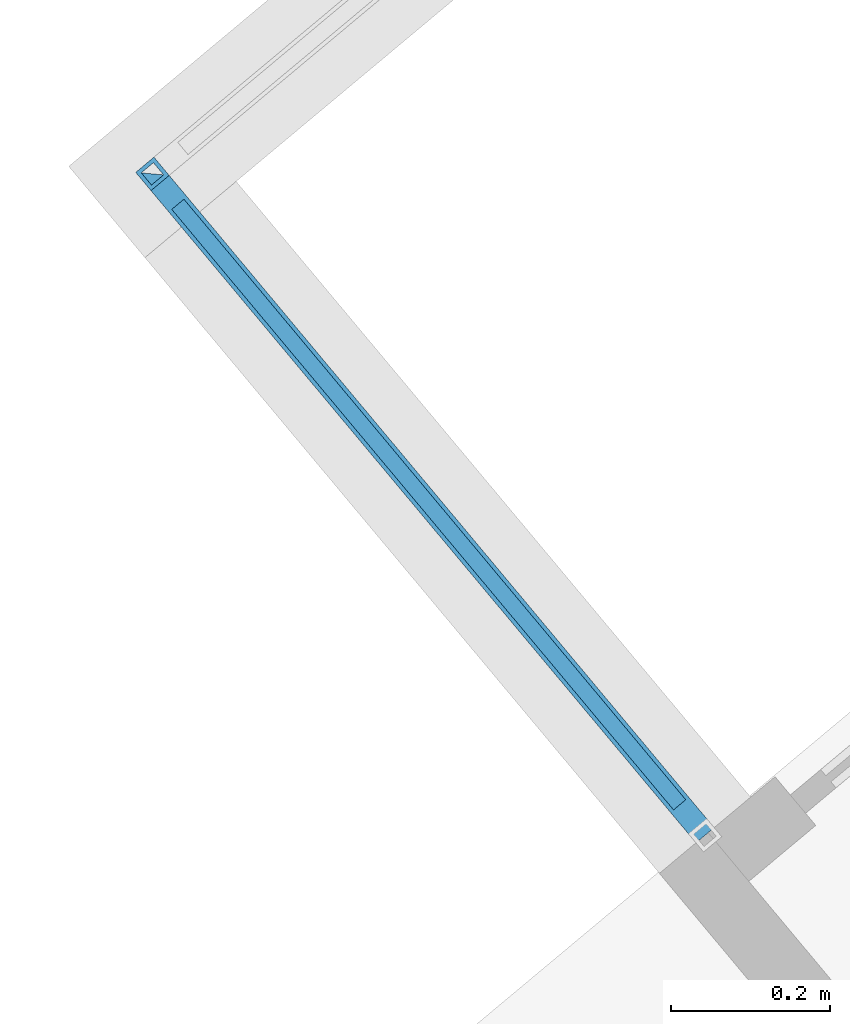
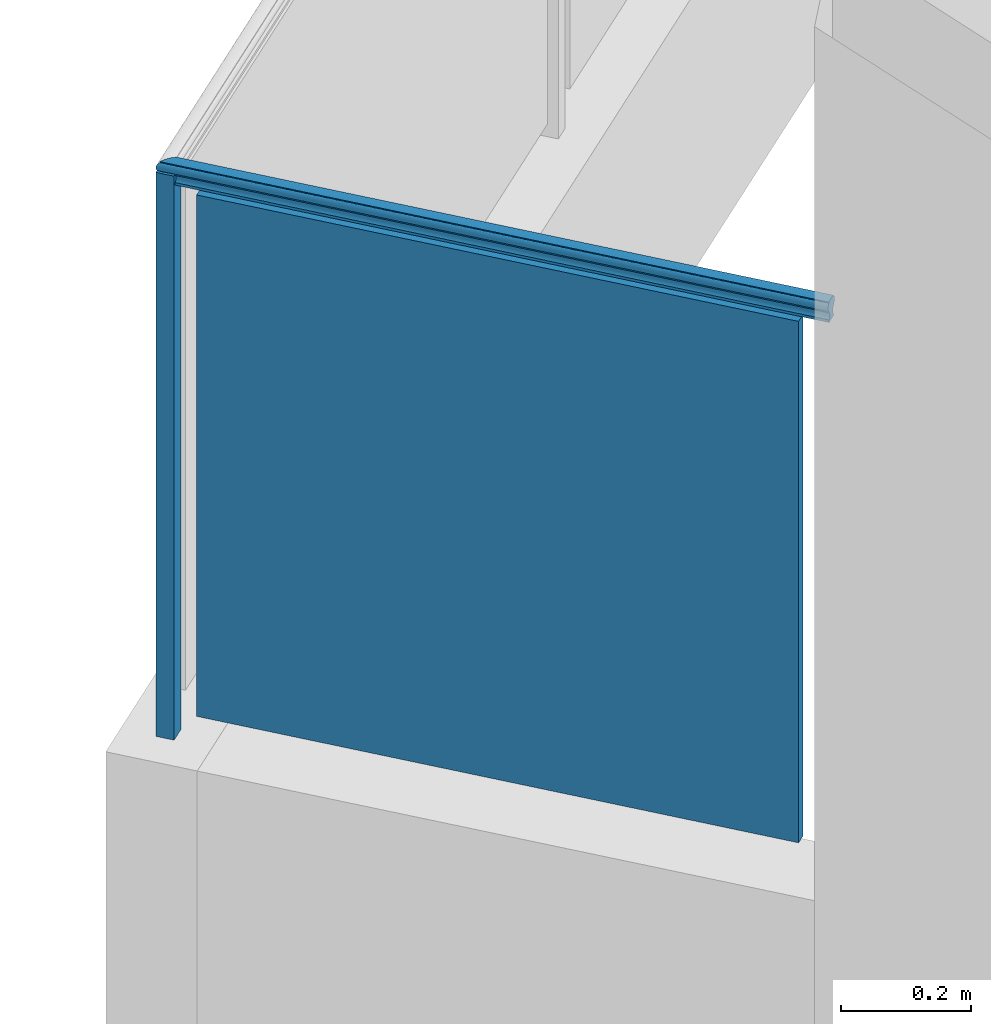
# One storey, part 28 of 67: 3 building element parts, 1 element without a shape of its own.
"""IFC4 building model written with IfcOpenShell, lengths in metres."""

from ifc_helpers import new_model, entity, si_unit, converted_unit, derived_unit, direction, frame, origin_with_axes, place, context, subcontext, project, spatial, polygons, material, type_object, element, aggregate, save


model = new_model("IFC4")

# Units and contexts
model_context = context("Model", 3, precision=1e-05, world=origin_with_axes(), true_north=direction((0.0, 1.0)))
body_context = subcontext(model_context, "Body", "Model", "MODEL_VIEW")
ifc_project = project(units=[si_unit("LENGTHUNIT", "METRE"), si_unit("AREAUNIT", "SQUARE_METRE"), si_unit("VOLUMEUNIT", "CUBIC_METRE"), converted_unit("PLANEANGLEUNIT", "DEGREE", entity("IfcPlaneAngleMeasure", 0.0174532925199), si_unit("PLANEANGLEUNIT", "RADIAN"), dimensions=[0, 0, 0, 0, 0, 0, 0]), converted_unit("TIMEUNIT", "Year", entity("IfcTimeMeasure", 31556926.0), si_unit("TIMEUNIT", "SECOND"), dimensions=[0, 0, 1, 0, 0, 0, 0]), si_unit("MASSUNIT", "GRAM", prefix="KILO"), si_unit("THERMODYNAMICTEMPERATUREUNIT", "DEGREE_CELSIUS"), si_unit("LUMINOUSINTENSITYUNIT", "LUMEN"), si_unit("ENERGYUNIT", "JOULE", prefix="MEGA"), derived_unit("THERMALCONDUCTANCEUNIT", [(si_unit("POWERUNIT", "WATT"), 1), (si_unit("LENGTHUNIT", "METRE"), -1), (si_unit("THERMODYNAMICTEMPERATUREUNIT", "KELVIN"), -1)]), derived_unit("SPECIFICHEATCAPACITYUNIT", [(si_unit("ENERGYUNIT", "JOULE"), 1), (si_unit("MASSUNIT", "GRAM", prefix="KILO"), -1), (si_unit("THERMODYNAMICTEMPERATUREUNIT", "KELVIN"), -1)]), derived_unit("MASSDENSITYUNIT", [(si_unit("MASSUNIT", "GRAM", prefix="KILO"), 1), (si_unit("VOLUMEUNIT", "CUBIC_METRE"), -1)])], contexts=[model_context])

# Site, building, storey
site_placement = place(None, frame((-0.00153261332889, -0.00661245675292, 0.0), z_axis=(0.0, 0.0, 1.0), x_axis=(1.0, 0.0, 0.0)))
site = spatial("IfcSite", under=ifc_project, at=site_placement, Name="Site", CompositionType="ELEMENT")
building_placement = place(site_placement, origin_with_axes())
building = spatial("IfcBuilding", under=site, at=building_placement, Name="Building", CompositionType="ELEMENT")
storey_placement = place(building_placement, frame((0.0, 0.0, -0.22), z_axis=(0.0, 0.0, 1.0), x_axis=(1.0, 0.0, 0.0)))
storey = spatial("IfcBuildingStorey", under=building, at=storey_placement, Name="EG", CompositionType="ELEMENT", Elevation=-0.22)

# Railing, building element parts
railing_type = type_object("IfcRailingType", Name="Geländerart", PredefinedType="NOTDEFINED")
railing_placement = place(storey_placement, frame((-6.36726458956, 22.4448248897, 0.523948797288), z_axis=(0.0, 0.0, 1.0), x_axis=(1.0, 0.0, 0.0)))
railing = element("IfcRailing", 1, at=railing_placement, inside=storey, type_object=railing_type, Name="Geländer - 001", PredefinedType="NOTDEFINED")
ifc_material_1 = material(Name="Aluminium")
building_element_part_1_placement = place(railing_placement, origin_with_axes())
building_element_part_1 = element("IfcBuildingElementPart", 2, at=building_element_part_1_placement, material=ifc_material_1, Name="Aluminium", PredefinedType="NOTDEFINED", context=body_context, shape_type="Tessellation", body=[
    polygons([(-0.637623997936, 0.903434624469, 0.0), (-0.660644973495, 0.884198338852, 0.0), (-0.660644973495, 0.884198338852, 1.06), (-0.637623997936, 0.903434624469, 1.06), (-0.61838771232, 0.88041364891, 0.0), (-0.641408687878, 0.861177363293, 0.0), (-0.638254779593, 0.896391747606, 0.0), (-0.653602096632, 0.883567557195, 0.0), (-0.640777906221, 0.868220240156, 0.0), (-0.625430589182, 0.881044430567, 0.0), (-0.641408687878, 0.861177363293, 1.06), (-0.61838771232, 0.88041364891, 1.06), (-0.638254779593, 0.896391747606, 1.06), (-0.625430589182, 0.881044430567, 1.06), (-0.640777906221, 0.868220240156, 1.06), (-0.653602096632, 0.883567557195, 1.06)], [[[1, 2, 3, 4]], [[1, 5, 6, 2], [7, 8, 9, 10]], [[2, 6, 11, 3]], [[4, 3, 11, 12], [13, 14, 15, 16]], [[5, 1, 4, 12]], [[6, 5, 12, 11]], [[8, 7, 13, 16]], [[9, 8, 16, 15]], [[10, 9, 15, 14]], [[7, 10, 14, 13]]], closed=True),
])
building_element_part_2_placement = place(railing_placement, origin_with_axes())
building_element_part_2 = element("IfcBuildingElementPart", 3, at=building_element_part_2_placement, material=ifc_material_1, Name="Aluminium", PredefinedType="NOTDEFINED", context=body_context, shape_type="Tessellation", body=[
    polygons([(0.0653297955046, 0.0545894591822, 1.07636363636), (0.065510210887, 0.0547402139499, 1.07634109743), (-0.624907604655, 0.880995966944, 1.07634109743), (-0.62523880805, 0.881025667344, 1.07636363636), (0.0653297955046, 0.0545894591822, 1.07818181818), (0.0652823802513, 0.0545498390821, 1.07820551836), (0.0627521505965, 0.0524355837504, 1.0792391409), (0.0601853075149, 0.0502907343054, 1.07983921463), (0.0576013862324, 0.0481316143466, 1.08000117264), (0.0575524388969, 0.0480907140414, 1.08), (0.0575034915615, 0.0480498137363, 1.08000117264), (0.0549195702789, 0.0458906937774, 1.07983921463), (0.0523527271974, 0.0437458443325, 1.0792391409), (0.0498224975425, 0.0416315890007, 1.07820551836), (0.0497750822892, 0.0415919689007, 1.07818181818), (0.0497750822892, 0.0415919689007, 1.07636363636), (0.0495946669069, 0.0414412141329, 1.07634109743), (0.0489265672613, 0.0408829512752, 1.0761115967), (0.0482890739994, 0.0403502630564, 1.07565956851), (0.0477015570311, 0.0398593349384, 1.07499874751), (0.0471818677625, 0.0394250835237, 1.0741492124), (0.0467457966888, 0.0390607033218, 1.07313677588), (0.0464065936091, 0.0387772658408, 1.07199220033), (0.0461745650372, 0.038583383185, 1.07075026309), (0.0460567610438, 0.0384849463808, 1.06944869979), (0.0460567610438, 0.0384849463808, 1.06812705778), (0.0461745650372, 0.038583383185, 1.06682549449), (0.0464065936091, 0.0387772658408, 1.06558355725), (0.0467457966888, 0.0390607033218, 1.06443898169), (0.0471818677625, 0.0394250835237, 1.06342654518), (0.0477015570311, 0.0398593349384, 1.06257701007), (0.0482890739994, 0.0403502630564, 1.06191618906), (0.0489265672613, 0.0408829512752, 1.06146416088), (0.0495946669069, 0.0414412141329, 1.06123466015), (0.0497750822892, 0.0415919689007, 1.06121212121), (0.0497750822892, 0.0415919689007, 1.05818181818), (0.0498970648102, 0.041693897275, 1.05810011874), (0.0504653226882, 0.0421687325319, 1.05758389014), (0.050978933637, 0.0425979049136, 1.05688326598), (0.051422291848, 0.0429683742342, 1.05601953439), (0.0517819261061, 0.043268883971, 1.05501893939), (0.0520469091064, 0.0434903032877, 1.05391188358), (0.0522091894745, 0.0436259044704, 1.05273200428), (0.0522638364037, 0.0436715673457, 1.05151515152), (0.0522091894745, 0.0436259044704, 1.05029829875), (0.0520469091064, 0.0434903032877, 1.04911841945), (0.0517819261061, 0.043268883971, 1.04801136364), (0.051422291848, 0.0429683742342, 1.04701076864), (0.050978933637, 0.0425979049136, 1.04614703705), (0.0504653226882, 0.0421687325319, 1.04544641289), (0.0498970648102, 0.041693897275, 1.04493018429), (0.0497750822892, 0.0415919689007, 1.04484848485), (0.0497750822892, 0.0415919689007, 1.04), (0.0653297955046, 0.0545894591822, 1.04), (0.0653297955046, 0.0545894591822, 1.04484848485), (0.0652078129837, 0.0544875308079, 1.04493018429), (0.0646395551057, 0.0540126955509, 1.04544641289), (0.0641259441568, 0.0535835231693, 1.04614703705), (0.0636825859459, 0.0532130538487, 1.04701076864), (0.0633229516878, 0.0529125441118, 1.04801136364), (0.0630579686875, 0.0526911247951, 1.04911841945), (0.0628956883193, 0.0525555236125, 1.05029829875), (0.0628410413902, 0.0525098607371, 1.05151515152), (0.0628956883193, 0.0525555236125, 1.05273200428), (0.0630579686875, 0.0526911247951, 1.05391188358), (0.0633229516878, 0.0529125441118, 1.05501893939), (0.0636825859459, 0.0532130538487, 1.05601953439), (0.0641259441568, 0.0535835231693, 1.05688326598), (0.0646395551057, 0.0540126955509, 1.05758389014), (0.0652078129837, 0.0544875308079, 1.05810011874), (0.0653297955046, 0.0545894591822, 1.05818181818), (0.0653297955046, 0.0545894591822, 1.06121212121), (0.065510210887, 0.0547402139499, 1.06123466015), (0.0661783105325, 0.0552984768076, 1.06146416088), (0.0668158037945, 0.0558311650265, 1.06191618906), (0.0674033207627, 0.0563220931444, 1.06257701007), (0.0679230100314, 0.0567563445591, 1.06342654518), (0.0683590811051, 0.057120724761, 1.06443898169), (0.0686982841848, 0.0574041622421, 1.06558355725), (0.0689303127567, 0.0575980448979, 1.06682549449), (0.06904811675, 0.057696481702, 1.06812705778), (0.06904811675, 0.057696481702, 1.06944869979), (0.0689303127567, 0.0575980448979, 1.07075026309), (0.0686982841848, 0.0574041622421, 1.07199220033), (0.0683590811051, 0.057120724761, 1.07313677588), (0.0679230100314, 0.0567563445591, 1.0741492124), (0.0674033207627, 0.0563220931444, 1.07499874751), (0.0668158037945, 0.0558311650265, 1.07565956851), (0.0661783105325, 0.0552984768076, 1.0761115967), (-0.623681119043, 0.880885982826, 1.0761115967), (-0.622510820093, 0.880781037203, 1.07565956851), (-0.621432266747, 0.880684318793, 1.07499874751), (-0.620478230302, 0.880598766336, 1.0741492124), (-0.619677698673, 0.880526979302, 1.07313677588), (-0.619054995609, 0.880471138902, 1.07199220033), (-0.618629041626, 0.880432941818, 1.07075026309), (-0.618412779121, 0.880413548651, 1.06944869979), (-0.618412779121, 0.880413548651, 1.06812705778), (-0.618629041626, 0.880432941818, 1.06682549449), (-0.619054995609, 0.880471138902, 1.06558355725), (-0.619677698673, 0.880526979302, 1.06443898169), (-0.620478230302, 0.880598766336, 1.06342654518), (-0.621432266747, 0.880684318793, 1.06257701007), (-0.622510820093, 0.880781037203, 1.06191618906), (-0.623681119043, 0.880885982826, 1.06146416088), (-0.624907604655, 0.880995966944, 1.06123466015), (-0.62523880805, 0.881025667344, 1.06121212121), (-0.62523880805, 0.881025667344, 1.05818181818), (-0.625462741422, 0.881045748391, 1.05810011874), (-0.626505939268, 0.881139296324, 1.05758389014), (-0.62744881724, 0.881223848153, 1.05688326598), (-0.628262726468, 0.881296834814, 1.05601953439), (-0.628922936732, 0.881356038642, 1.05501893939), (-0.629409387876, 0.88139966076, 1.05391188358), (-0.62970729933, 0.881426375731, 1.05273200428), (-0.629807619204, 0.881435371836, 1.05151515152), (-0.62970729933, 0.881426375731, 1.05029829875), (-0.629409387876, 0.88139966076, 1.04911841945), (-0.628922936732, 0.881356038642, 1.04801136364), (-0.628262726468, 0.881296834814, 1.04701076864), (-0.62744881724, 0.881223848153, 1.04614703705), (-0.626505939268, 0.881139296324, 1.04544641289), (-0.625462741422, 0.881045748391, 1.04493018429), (-0.62523880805, 0.881025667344, 1.04484848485), (-0.62523880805, 0.881025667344, 1.04), (-0.653793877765, 0.883586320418, 1.04), (-0.653793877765, 0.883586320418, 1.04484848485), (-0.653569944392, 0.883566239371, 1.04493018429), (-0.652526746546, 0.883472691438, 1.04544641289), (-0.651583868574, 0.883388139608, 1.04614703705), (-0.650769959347, 0.883315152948, 1.04701076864), (-0.650109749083, 0.88325594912, 1.04801136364), (-0.649623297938, 0.883212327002, 1.04911841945), (-0.649325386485, 0.883185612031, 1.05029829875), (-0.649225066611, 0.883176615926, 1.05151515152), (-0.649325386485, 0.883185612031, 1.05273200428), (-0.649623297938, 0.883212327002, 1.05391188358), (-0.650109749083, 0.88325594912, 1.05501893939), (-0.650769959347, 0.883315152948, 1.05601953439), (-0.651583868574, 0.883388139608, 1.05688326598), (-0.652526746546, 0.883472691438, 1.05758389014), (-0.653569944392, 0.883566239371, 1.05810011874), (-0.653793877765, 0.883586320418, 1.05818181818), (-0.653793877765, 0.883586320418, 1.06121212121), (-0.65412508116, 0.883616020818, 1.06123466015), (-0.655351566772, 0.883726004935, 1.06146416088), (-0.656521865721, 0.883830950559, 1.06191618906), (-0.657600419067, 0.883927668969, 1.06257701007), (-0.658554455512, 0.884013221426, 1.06342654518), (-0.659354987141, 0.88408500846, 1.06443898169), (-0.659977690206, 0.88414084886, 1.06558355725), (-0.660403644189, 0.884179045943, 1.06682549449), (-0.660619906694, 0.884198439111, 1.06812705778), (-0.660619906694, 0.884198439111, 1.06944869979), (-0.660403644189, 0.884179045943, 1.07075026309), (-0.659977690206, 0.88414084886, 1.07199220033), (-0.659354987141, 0.88408500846, 1.07313677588), (-0.658554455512, 0.884013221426, 1.0741492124), (-0.657600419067, 0.883927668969, 1.07499874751), (-0.656521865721, 0.883830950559, 1.07565956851), (-0.655351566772, 0.883726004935, 1.0761115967), (-0.65412508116, 0.883616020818, 1.07634109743), (-0.653793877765, 0.883586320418, 1.07636363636), (-0.653793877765, 0.883586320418, 1.07818181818), (-0.653706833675, 0.883578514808, 1.07820551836), (-0.649061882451, 0.883161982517, 1.0792391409), (-0.64434971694, 0.882739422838, 1.07983921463), (-0.639606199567, 0.882314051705, 1.08000117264), (-0.639516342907, 0.882305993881, 1.08), (-0.639426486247, 0.882297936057, 1.08000117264), (-0.634682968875, 0.881872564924, 1.07983921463), (-0.629970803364, 0.881450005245, 1.0792391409), (-0.62532585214, 0.881033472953, 1.07820551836), (-0.62523880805, 0.881025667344, 1.07818181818)], [[[1, 2, 3, 4]], [[1, 5, 6, 7, 8, 9, 10, 11, 12, 13, 14, 15, 16, 17, 18, 19, 20, 21, 22, 23, 24, 25, 26, 27, 28, 29, 30, 31, 32, 33, 34, 35, 36, 37, 38, 39, 40, 41, 42, 43, 44, 45, 46, 47, 48, 49, 50, 51, 52, 53, 54, 55, 56, 57, 58, 59, 60, 61, 62, 63, 64, 65, 66, 67, 68, 69, 70, 71, 72, 73, 74, 75, 76, 77, 78, 79, 80, 81, 82, 83, 84, 85, 86, 87, 88, 89, 2]], [[2, 89, 90, 3]], [[4, 3, 90, 91, 92, 93, 94, 95, 96, 97, 98, 99, 100, 101, 102, 103, 104, 105, 106, 107, 108, 109, 110, 111, 112, 113, 114, 115, 116, 117, 118, 119, 120, 121, 122, 123, 124, 125, 126, 127, 128, 129, 130, 131, 132, 133, 134, 135, 136, 137, 138, 139, 140, 141, 142, 143, 144, 145, 146, 147, 148, 149, 150, 151, 152, 153, 154, 155, 156, 157, 158, 159, 160, 161, 162, 163, 164, 165, 166, 167, 168, 169, 170, 171, 172, 173, 174]], [[5, 1, 4, 174]], [[6, 5, 174, 173]], [[7, 6, 173, 172]], [[8, 7, 172, 171]], [[9, 8, 171, 170]], [[10, 9, 170, 169]], [[11, 10, 169, 168]], [[12, 11, 168, 167]], [[13, 12, 167, 166]], [[14, 13, 166, 165]], [[15, 14, 165, 164]], [[16, 15, 164, 163]], [[17, 16, 163, 162]], [[18, 17, 162, 161]], [[19, 18, 161, 160]], [[20, 19, 160, 159]], [[21, 20, 159, 158]], [[22, 21, 158, 157]], [[23, 22, 157, 156]], [[24, 23, 156, 155]], [[25, 24, 155, 154]], [[26, 25, 154, 153]], [[27, 26, 153, 152]], [[28, 27, 152, 151]], [[29, 28, 151, 150]], [[30, 29, 150, 149]], [[31, 30, 149, 148]], [[32, 31, 148, 147]], [[33, 32, 147, 146]], [[34, 33, 146, 145]], [[35, 34, 145, 144]], [[36, 35, 144, 143]], [[37, 36, 143, 142]], [[38, 37, 142, 141]], [[39, 38, 141, 140]], [[40, 39, 140, 139]], [[41, 40, 139, 138]], [[42, 41, 138, 137]], [[43, 42, 137, 136]], [[44, 43, 136, 135]], [[45, 44, 135, 134]], [[46, 45, 134, 133]], [[47, 46, 133, 132]], [[48, 47, 132, 131]], [[49, 48, 131, 130]], [[50, 49, 130, 129]], [[51, 50, 129, 128]], [[52, 51, 128, 127]], [[53, 52, 127, 126]], [[54, 53, 126, 125]], [[55, 54, 125, 124]], [[56, 55, 124, 123]], [[57, 56, 123, 122]], [[58, 57, 122, 121]], [[59, 58, 121, 120]], [[60, 59, 120, 119]], [[61, 60, 119, 118]], [[62, 61, 118, 117]], [[63, 62, 117, 116]], [[64, 63, 116, 115]], [[65, 64, 115, 114]], [[66, 65, 114, 113]], [[67, 66, 113, 112]], [[68, 67, 112, 111]], [[69, 68, 111, 110]], [[70, 69, 110, 109]], [[71, 70, 109, 108]], [[72, 71, 108, 107]], [[73, 72, 107, 106]], [[74, 73, 106, 105]], [[75, 74, 105, 104]], [[76, 75, 104, 103]], [[77, 76, 103, 102]], [[78, 77, 102, 101]], [[79, 78, 101, 100]], [[80, 79, 100, 99]], [[81, 80, 99, 98]], [[82, 81, 98, 97]], [[83, 82, 97, 96]], [[84, 83, 96, 95]], [[85, 84, 95, 94]], [[86, 85, 94, 93]], [[87, 86, 93, 92]], [[88, 87, 92, 91]], [[89, 88, 91, 90]]], closed=True),
])
ifc_material_2 = material(Name="Zaun")
building_element_part_3_placement = place(railing_placement, origin_with_axes())
building_element_part_3 = element("IfcBuildingElementPart", 4, at=building_element_part_3_placement, material=ifc_material_2, Name="Zaun", PredefinedType="NOTDEFINED", context=body_context, shape_type="Tessellation", body=[
    polygons([(-0.615129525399, 0.837525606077, 0.05), (0.0178183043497, 0.0800469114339, 0.05), (0.0178183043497, 0.0800469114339, 1.03), (-0.615129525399, 0.837525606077, 1.03), (0.0331656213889, 0.0928711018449, 0.05), (-0.59978220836, 0.850349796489, 0.05), (0.0331656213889, 0.0928711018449, 1.03), (-0.59978220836, 0.850349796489, 1.03)], [[[1, 2, 3, 4]], [[5, 2, 1, 6]], [[7, 3, 2, 5]], [[4, 3, 7, 8]], [[1, 4, 8, 6]], [[7, 5, 6, 8]]], closed=True),
])
aggregate(railing, [building_element_part_1, building_element_part_2, building_element_part_3])

save(model, "model.ifc")
